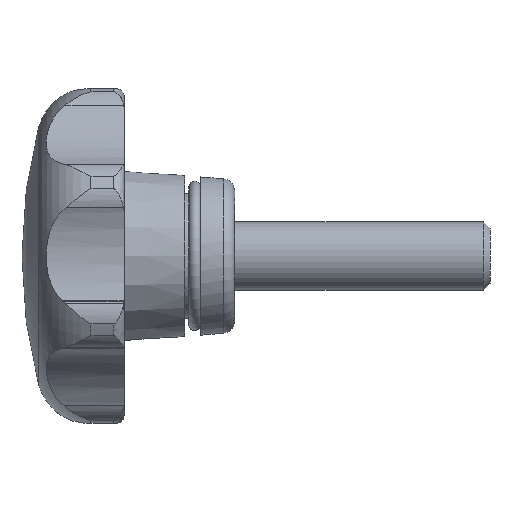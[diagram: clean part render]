
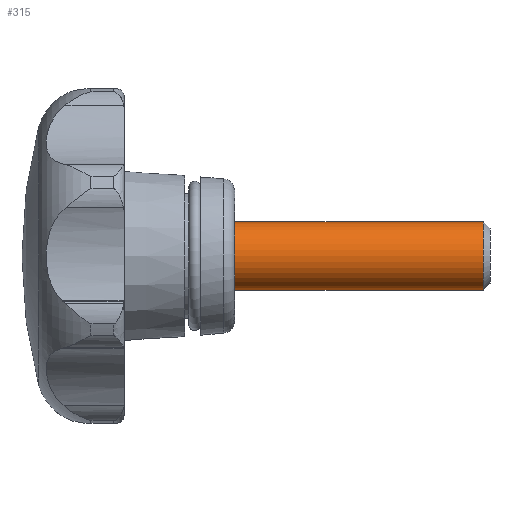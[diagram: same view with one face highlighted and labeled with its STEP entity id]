
A CAD part, left-side view. The second image highlights one B-rep face of the part: STEP entity #315.
In plain terms, the highlighted cylindrical face has radius 4 mm (diameter 8 mm), a full revolution.
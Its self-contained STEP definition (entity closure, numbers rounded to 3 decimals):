
#315 = ADVANCED_FACE( '', ( #688, #689 ), #690, .T. );
#688 = FACE_OUTER_BOUND( '', #1112, .T. );
#689 = FACE_OUTER_BOUND( '', #1113, .T. );
#690 = CYLINDRICAL_SURFACE( '', #1114, 4. );
#1112 = EDGE_LOOP( '', ( #2391 ) );
#1113 = EDGE_LOOP( '', ( #2392 ) );
#1114 = AXIS2_PLACEMENT_3D( '', #2393, #2394, #2395 );
#2391 = ORIENTED_EDGE( '', *, *, #3065, .F. );
#2392 = ORIENTED_EDGE( '', *, *, #2968, .T. );
#2393 = CARTESIAN_POINT( '', ( 0., -30., 0. ) );
#2394 = DIRECTION( '', ( 0., 1., 0. ) );
#2395 = DIRECTION( '', ( 0., 0., -1. ) );
#2968 = EDGE_CURVE( '', #3671, #3671, #3672, .T. );
#3065 = EDGE_CURVE( '', #3790, #3790, #3791, .T. );
#3671 = VERTEX_POINT( '', #5474 );
#3672 = CIRCLE( '', #5475, 4. );
#3790 = VERTEX_POINT( '', #5667 );
#3791 = CIRCLE( '', #5668, 4. );
#5474 = CARTESIAN_POINT( '', ( 0., 0., -4. ) );
#5475 = AXIS2_PLACEMENT_3D( '', #6260, #6261, #6262 );
#5667 = CARTESIAN_POINT( '', ( 0., -29.233, -4. ) );
#5668 = AXIS2_PLACEMENT_3D( '', #6464, #6465, #6466 );
#6260 = CARTESIAN_POINT( '', ( 0., 0., 0. ) );
#6261 = DIRECTION( '', ( 0., -1., 0. ) );
#6262 = DIRECTION( '', ( 0., 0., -1. ) );
#6464 = CARTESIAN_POINT( '', ( 0., -29.233, 0. ) );
#6465 = DIRECTION( '', ( 0., -1., 0. ) );
#6466 = DIRECTION( '', ( 0., 0., -1. ) );
